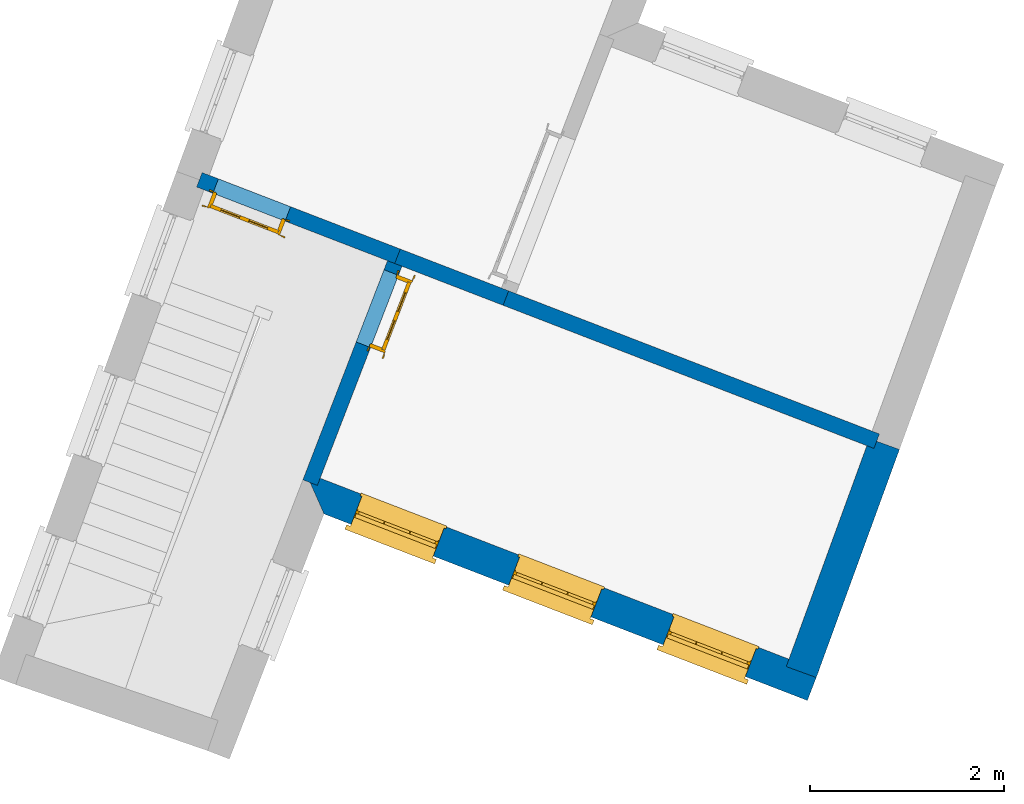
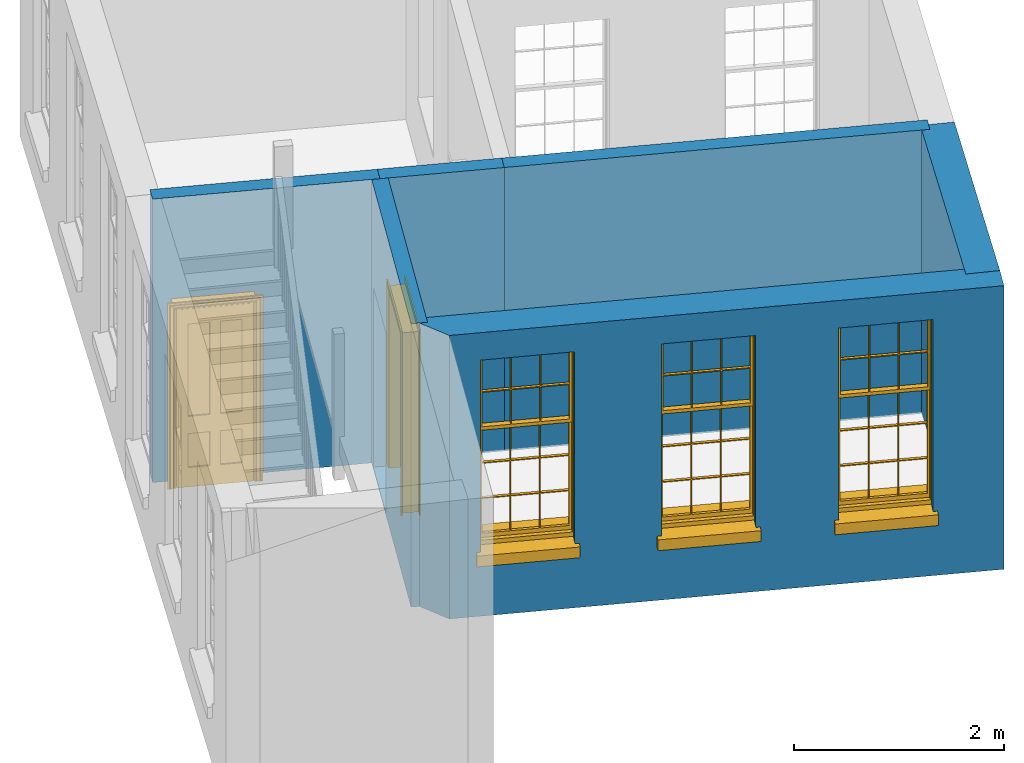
# One storey, part 2 of 4: 6 walls, 3 windows, 2 doors, 5 openings.
"""IFC4 building model written with IfcOpenShell, lengths in metres."""

from ifc_helpers import new_model, si_unit, frame, origin, origin_with_axes, place, context, subcontext, project, spatial, polyline, outline, extrude, faceted_brep, source, transform, mapped, material, layer, layer_set, layer_usage, type_object, type_shapes, element, fill, save


model = new_model("IFC4")

# Units and contexts
model_context = context("Model", 3, world=origin_with_axes())
body_context = subcontext(model_context, "Body", "Model", "MODEL_VIEW")
ifc_project = project(units=[si_unit("PLANEANGLEUNIT", "RADIAN"), si_unit("MASSUNIT", "GRAM", prefix="KILO"), si_unit("FORCEUNIT", "NEWTON", prefix="KILO"), si_unit("LENGTHUNIT", "METRE"), si_unit("AREAUNIT", "SQUARE_METRE"), si_unit("VOLUMEUNIT", "CUBIC_METRE")], contexts=[model_context, model_context])

# Sites, building, storey
site_1_placement = place(None, origin_with_axes())
site_1 = spatial("IfcSite", under=ifc_project, at=site_1_placement, Name="Tamar")
site_2_placement = place(site_1_placement, origin_with_axes())
site_2 = spatial("IfcSite", under=site_1, at=site_2_placement, Name="Site plot-11", CompositionType="ELEMENT")
building_placement = place(None, origin_with_axes())
building = spatial("IfcBuilding", under=site_2, at=building_placement, Name="Building plot-11", CompositionType="ELEMENT")
storey_placement = place(None, frame((0.0, 0.0, 30.1), z_axis=(0.0, 0.0, 1.0), x_axis=(1.0, 0.0, 0.0)))
storey = spatial("IfcBuildingStorey", under=building, at=storey_placement, Name="plot-11 1", CompositionType="ELEMENT", Elevation=30.1)

# Wall, openings, windows
ifc_material_1 = material(Name="Masonry")
ifc_layer_1 = layer(ifc_material_1, 0.33, ventilated=False)
ifc_layer_set_1 = layer_set([ifc_layer_1], Name="exterior_0.08_0.25")
ifc_layer_usage_1 = layer_usage(ifc_layer_set_1, "AXIS2", "POSITIVE", -0.25)
wall_type_1 = type_object("IfcWallType", Name="exterior_0.08_0.25", PredefinedType="SOLIDWALL", material=ifc_layer_set_1)
wall_1_placement = place(storey_placement, frame((241.432402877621, 311.902585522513, 0.0), z_axis=(0.0, 0.0, 1.0), x_axis=(0.932925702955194, -0.36006892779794, 0.0)))
wall_1 = element("IfcWall", 1, at=wall_1_placement, inside=storey, type_object=wall_type_1, material=ifc_layer_usage_1, Name="exterior", context=body_context, shape_type="SweptSolid", body=[
    extrude(outline(polyline([(-0.0800000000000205, 0.0799999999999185), (0.249999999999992, -0.250000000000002), (5.60336772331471, -0.249999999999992), (5.60336772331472, 0.0799999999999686), (-0.0800000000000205, 0.0799999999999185)])), origin_with_axes(), (0.0, 0.0, 1.0), 3.3),
])
opening_1_placement = place(wall_1_placement, frame((0.549999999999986, 0.0, 0.75)))
opening_1 = element("IfcOpeningElement", 2, at=opening_1_placement, cuts=wall_1, Name="My Opening", ObjectType="Opening", context=body_context, shape_type="SweptSolid", body=[
    extrude(outline(polyline([(0.0, -0.269999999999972), (0.910000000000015, -0.269999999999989), (0.910000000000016, 1.09999999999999), (9.99200722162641e-16, 1.10000000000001), (0.0, -0.269999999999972)])), origin_with_axes(), (0.0, 0.0, 1.0), 2.23),
])
opening_2_placement = place(wall_1_placement, frame((2.2961397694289, 0.0, 0.75)))
opening_2 = element("IfcOpeningElement", 3, at=opening_2_placement, cuts=wall_1, Name="My Opening", ObjectType="Opening", context=body_context, shape_type="SweptSolid", body=[
    extrude(outline(polyline([(0.0, -0.26999999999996), (0.909999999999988, -0.269999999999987), (0.909999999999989, 1.09999999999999), (8.88178419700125e-16, 1.10000000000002), (0.0, -0.26999999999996)])), origin_with_axes(), (0.0, 0.0, 1.0), 2.23),
])
opening_3_placement = place(wall_1_placement, frame((4.0061397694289, 0.0, 0.75)))
opening_3 = element("IfcOpeningElement", 4, at=opening_3_placement, cuts=wall_1, Name="My Opening", ObjectType="Opening", context=body_context, shape_type="SweptSolid", body=[
    extrude(outline(polyline([(0.0, -0.269999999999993), (0.909999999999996, -0.269999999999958), (0.909999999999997, 1.10000000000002), (1.77635683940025e-15, 1.09999999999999), (0.0, -0.269999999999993)])), origin_with_axes(), (0.0, 0.0, 1.0), 2.23),
])
window_type = type_object("IfcWindowType", Name="sash_big_taller", PartitioningType="DOUBLE_PANEL_HORIZONTAL", PredefinedType="NOTDEFINED")
shared_shape_1 = source(origin(), body_context, "Body", "Brep", [
    faceted_brep([(0.033125, 0.145, 1.385209), (0.01, 0.145, 1.385209), (0.033125, 0.145, 1.786042), (0.876875, 0.145, 1.385209), (0.876875, 0.145, 1.786042), (0.9, 0.145, 1.385209), (0.876875, 0.145, 1.796042), (0.876875, 0.145, 2.196875), (0.9, 0.145, 2.22), (0.033125, 0.145, 2.196875), (0.033125, 0.145, 1.796042), (0.01, 0.145, 2.22), (0.876875, 0.115, 1.786042), (0.876875, 0.115, 1.385209), (0.9, 0.115, 1.347084), (0.033125, 0.115, 2.196875), (0.01, 0.115, 2.22), (0.033125, 0.115, 1.796042), (0.01, 0.115, 1.347084), (0.033125, 0.115, 1.385209), (0.033125, 0.115, 1.786042), (0.876875, 0.115, 2.196875), (0.876875, 0.115, 1.796042), (0.9, 0.115, 2.22), (0.033125, 0.145, 1.347084), (0.01, 0.145, 1.347084), (0.033125, 0.145, 0.94625), (0.876875, 0.145, 1.347084), (0.876875, 0.145, 0.94625), (0.9, 0.145, 1.347084), (0.876875, 0.145, 0.52625), (0.876875, 0.145, 0.125417), (0.9, 0.145, 0.077167), (0.033125, 0.145, 0.125417), (0.033125, 0.145, 0.52625), (0.01, 0.145, 0.077167), (-0.0425, 0.0, 0.01), (-0.0425, -0.05, 0.001667), (0.0, 0.0, 0.01), (0.9525, 0.0, 0.01), (0.91, 0.0, 0.01), (0.9525, -0.05, 0.001667), (-0.02, 0.33, 0.077167), (0.0, 0.33, 0.077167), (-0.02, 0.36, 0.077167), (0.0, 0.19, 0.077167), (0.01, 0.19, 0.077167), (0.91, 0.19, 0.077167), (0.91, 0.33, 0.077167), (0.9, 0.19, 0.077167), (0.93, 0.33, 0.077167), (0.93, 0.36, 0.077167), (0.01, 0.175, 1.385209), (0.9, 0.175, 1.385209), (0.876875, 0.175, 0.125417), (0.876875, 0.175, 0.52625), (0.9, 0.175, 0.077167), (0.876875, 0.175, 0.94625), (0.876875, 0.175, 1.347084), (0.033125, 0.175, 0.125417), (0.01, 0.175, 0.077167), (0.033125, 0.175, 0.52625), (0.033125, 0.175, 1.347084), (0.033125, 0.175, 0.94625), (-0.02, 0.33, 0.052167), (-0.02, 0.36, 0.052167), (0.93, 0.36, 0.052167), (0.93, 0.33, 0.052167), (0.91, 0.33, 0.052167), (0.0, 0.33, 0.052167), (0.91, 0.1, 0.026667), (0.0, 0.1, 0.026667), (-0.0425, -0.05, -0.123333), (0.9525, -0.05, -0.123333), (-0.0425, 0.0, -0.123333), (0.9525, 0.0, -0.123333), (0.01, 0.19, 2.22), (0.9, 0.19, 2.22), (0.0, 0.19, 2.23), (0.91, 0.19, 2.23), (0.01, 0.1, 0.077167), (0.9, 0.1, 0.077167), (0.592292, 0.145, 0.125417), (0.592292, 0.175, 0.125417), (0.317708, 0.175, 0.125417), (0.317708, 0.145, 0.125417), (0.592292, 0.145, 0.53625), (0.317708, 0.145, 0.53625), (0.317708, 0.145, 0.52625), (0.592292, 0.145, 0.52625), (0.592292, 0.175, 0.53625), (0.317708, 0.175, 0.53625), (0.592292, 0.115, 1.796042), (0.592292, 0.145, 1.796042), (0.317708, 0.145, 1.796042), (0.317708, 0.115, 1.796042), (0.317708, 0.115, 1.786042), (0.592292, 0.115, 1.786042), (0.317708, 0.145, 1.786042), (0.592292, 0.145, 1.786042), (0.602292, 0.115, 1.786042), (0.592292, 0.115, 1.385209), (0.602292, 0.115, 1.385209), (0.602292, 0.145, 1.385209), (0.592292, 0.145, 1.385209), (0.602292, 0.145, 1.786042), (0.876875, 0.145, 0.53625), (0.876875, 0.175, 0.53625), (0.602292, 0.175, 0.53625), (0.602292, 0.145, 0.53625), (0.317708, 0.175, 0.52625), (0.307708, 0.175, 0.125417), (0.307708, 0.175, 0.52625), (0.602292, 0.175, 0.52625), (0.602292, 0.175, 0.125417), (0.592292, 0.175, 0.52625), (0.307708, 0.175, 0.53625), (0.033125, 0.175, 0.53625), (0.317708, 0.175, 1.347084), (0.317708, 0.175, 0.94625), (0.307708, 0.175, 0.94625), (0.307708, 0.175, 1.347084), (0.602292, 0.175, 1.347084), (0.602292, 0.175, 0.94625), (0.592292, 0.175, 0.94625), (0.592292, 0.175, 1.347084), (0.307708, 0.145, 0.52625), (0.307708, 0.145, 0.125417), (0.307708, 0.145, 0.53625), (0.033125, 0.145, 0.53625), (0.307708, 0.145, 1.347084), (0.307708, 0.145, 0.94625), (0.592292, 0.145, 1.347084), (0.592292, 0.145, 0.94625), (0.317708, 0.145, 0.94625), (0.317708, 0.145, 1.347084), (0.602292, 0.145, 0.94625), (0.602292, 0.145, 1.347084), (0.602292, 0.145, 0.52625), (0.602292, 0.145, 0.125417), (0.307708, 0.115, 1.796042), (0.307708, 0.115, 1.786042), (0.307708, 0.115, 1.385209), (0.317708, 0.115, 1.385209), (0.317708, 0.115, 2.196875), (0.307708, 0.115, 2.196875), (0.602292, 0.115, 2.196875), (0.592292, 0.115, 2.196875), (0.602292, 0.115, 1.796042), (0.602292, 0.145, 1.796042), (0.307708, 0.145, 1.796042), (0.307708, 0.145, 2.196875), (0.317708, 0.145, 2.196875), (0.592292, 0.145, 2.196875), (0.602292, 0.145, 2.196875), (0.307708, 0.145, 1.786042), (0.317708, 0.145, 1.385209), (0.307708, 0.145, 1.385209), (0.876875, 0.175, 0.93625), (0.033125, 0.175, 0.93625), (0.033125, 0.145, 0.93625), (0.876875, 0.145, 0.93625), (0.91, 0.1, 2.23), (0.9, 0.1, 2.22), (0.01, 0.1, 2.22), (0.0, 0.1, 2.23), (0.91, 0.0, 0.0), (0.0, 0.0, 0.0), (0.91, 0.33, 0.0), (0.0, 0.33, 0.0), (0.317708, 0.145, 0.93625), (0.592292, 0.145, 0.93625), (0.317708, 0.175, 0.93625), (0.307708, 0.175, 0.93625), (0.602292, 0.175, 0.93625), (0.592292, 0.175, 0.93625), (0.307708, 0.145, 0.93625), (0.602292, 0.145, 0.93625)], [[[0, 1, 2]], [[3, 4, 5]], [[6, 7, 8]], [[9, 10, 11]], [[12, 13, 14]], [[15, 16, 17]], [[18, 19, 20]], [[21, 22, 23]], [[24, 25, 26]], [[27, 28, 29]], [[30, 31, 32]], [[33, 34, 35]], [[14, 27, 29]], [[25, 24, 18]], [[36, 37, 38]], [[39, 40, 41]], [[42, 43, 44]], [[45, 46, 43]], [[47, 48, 49]], [[50, 51, 48]], [[1, 0, 52]], [[5, 53, 3]], [[54, 55, 56]], [[57, 58, 53]], [[59, 60, 61]], [[62, 63, 52]], [[48, 43, 46, 49]], [[51, 44, 43, 48]], [[64, 42, 44, 65]], [[65, 44, 51, 66]], [[66, 51, 50, 67]], [[65, 66, 68, 69]], [[60, 56, 49, 46]], [[70, 71, 38, 40]], [[37, 41, 40, 38]], [[37, 72, 73, 41]], [[74, 75, 73, 72]], [[8, 11, 76, 77]], [[76, 78, 79, 77]], [[32, 35, 80, 81]], [[81, 80, 71, 70]], [[82, 83, 84, 85]], [[86, 87, 88, 89]], [[86, 90, 91, 87]], [[92, 93, 94, 95]], [[92, 95, 96, 97]], [[96, 98, 99, 97]], [[100, 97, 101, 102]], [[103, 104, 99, 105]], [[97, 99, 104, 101]], [[102, 103, 105, 100]], [[106, 107, 108, 109]], [[110, 84, 111, 112]], [[113, 114, 83, 115]], [[116, 112, 61, 117]], [[90, 115, 110, 91]], [[118, 119, 120, 121]], [[122, 123, 124, 125]], [[113, 108, 107, 55]], [[126, 112, 111, 127]], [[34, 61, 112, 126]], [[89, 115, 83, 82]], [[88, 110, 115, 89]], [[85, 84, 110, 88]], [[128, 116, 117, 129]], [[130, 121, 120, 131]], [[132, 125, 124, 133]], [[134, 119, 118, 135]], [[136, 123, 122, 137]], [[138, 113, 55, 30]], [[139, 114, 113, 138]], [[138, 30, 106, 109]], [[88, 126, 127, 85]], [[138, 89, 82, 139]], [[137, 132, 133, 136]], [[128, 129, 34, 126]], [[135, 130, 131, 134]], [[140, 17, 20, 141]], [[96, 141, 142, 143]], [[144, 145, 140, 95]], [[146, 147, 92, 148]], [[100, 12, 22, 148]], [[149, 6, 4, 105]], [[94, 150, 151, 152]], [[149, 93, 153, 154]], [[99, 98, 94, 93]], [[155, 2, 10, 150]], [[156, 157, 155, 98]], [[141, 155, 157, 142]], [[20, 2, 155, 141]], [[143, 156, 98, 96]], [[140, 150, 10, 17]], [[145, 151, 150, 140]], [[147, 153, 93, 92]], [[95, 94, 152, 144]], [[22, 6, 149, 148]], [[148, 149, 154, 146]], [[100, 105, 4, 12]], [[109, 86, 89, 138]], [[108, 113, 115, 90]], [[91, 110, 112, 116]], [[87, 128, 126, 88]], [[97, 100, 148, 92]], [[141, 96, 95, 140]], [[98, 155, 150, 94]], [[105, 99, 93, 149]], [[143, 101, 104, 156]], [[135, 118, 125, 132]], [[144, 152, 153, 147]], [[127, 111, 59, 33]], [[15, 9, 151, 145]], [[146, 154, 7, 21]], [[31, 54, 114, 139]], [[36, 74, 72, 37]], [[39, 41, 73, 75]], [[18, 14, 101, 143]], [[23, 16, 144, 147]], [[83, 56, 60, 84]], [[52, 53, 125, 118]], [[53, 52, 156, 104]], [[11, 8, 153, 152]], [[14, 18, 135, 132]], [[2, 1, 11, 10]], [[8, 5, 4, 6]], [[57, 53, 56, 158]], [[60, 52, 63, 159]], [[26, 25, 35, 160]], [[32, 29, 28, 161]], [[14, 23, 22, 12]], [[18, 20, 17, 16]], [[19, 0, 2, 20]], [[17, 10, 9, 15]], [[12, 4, 3, 13]], [[21, 7, 6, 22]], [[27, 58, 57, 28]], [[30, 55, 54, 31]], [[33, 59, 61, 34]], [[26, 63, 62, 24]], [[5, 8, 77, 53]], [[76, 11, 1, 52]], [[46, 45, 78, 76]], [[49, 77, 79, 47]], [[70, 162, 163, 81]], [[71, 80, 164, 165]], [[19, 142, 157, 0]], [[102, 13, 3, 103]], [[121, 130, 24, 62]], [[29, 32, 81, 14]], [[80, 35, 25, 18]], [[60, 46, 76, 52]], [[77, 49, 56, 53]], [[23, 14, 81, 163]], [[16, 164, 80, 18]], [[35, 85, 127]], [[127, 33, 35]], [[139, 82, 32]], [[32, 31, 139]], [[32, 82, 85, 35]], [[102, 101, 14]], [[14, 13, 102]], [[18, 143, 142]], [[142, 19, 18]], [[146, 21, 23]], [[23, 147, 146]], [[16, 15, 145]], [[145, 144, 16]], [[11, 152, 151]], [[151, 9, 11]], [[154, 153, 8]], [[8, 7, 154]], [[23, 163, 164, 16]], [[162, 165, 164, 163]], [[52, 118, 121]], [[121, 62, 52]], [[125, 53, 122]], [[58, 122, 53]], [[27, 137, 122, 58]], [[56, 83, 114]], [[114, 54, 56]], [[111, 84, 60]], [[60, 59, 111]], [[137, 27, 14]], [[14, 132, 137]], [[130, 135, 18]], [[18, 24, 130]], [[157, 156, 52]], [[52, 0, 157]], [[103, 3, 53]], [[53, 104, 103]], [[79, 78, 165, 162]], [[78, 45, 71, 165]], [[162, 70, 47, 79]], [[166, 75, 74, 167]], [[68, 66, 67]], [[48, 68, 67, 50]], [[69, 64, 65]], [[42, 64, 69, 43]], [[69, 68, 168, 169]], [[70, 68, 48, 47]], [[166, 168, 68, 70]], [[43, 69, 71, 45]], [[69, 169, 167, 71]], [[168, 166, 167, 169]], [[38, 167, 74, 36]], [[71, 167, 38]], [[39, 75, 166, 40]], [[40, 166, 70]], [[133, 134, 170, 171]], [[133, 124, 119, 134]], [[28, 57, 123, 136]], [[172, 91, 116, 173]], [[174, 108, 90, 175]], [[120, 173, 159, 63]], [[124, 175, 172, 119]], [[174, 123, 57, 158]], [[176, 173, 116, 128]], [[160, 159, 173, 176]], [[171, 175, 90, 86]], [[170, 172, 175, 171]], [[87, 91, 172, 170]], [[131, 120, 63, 26]], [[177, 174, 158, 161]], [[109, 108, 174, 177]], [[177, 161, 28, 136]], [[170, 176, 128, 87]], [[177, 171, 86, 109]], [[131, 26, 160, 176]], [[136, 133, 171, 177]], [[123, 174, 175, 124]], [[119, 172, 173, 120]], [[134, 131, 176, 170]], [[129, 117, 159, 160]], [[161, 158, 107, 106]], [[35, 34, 129]], [[35, 129, 160]], [[32, 106, 30]], [[32, 161, 106]], [[56, 55, 107]], [[56, 107, 158]], [[60, 117, 61]], [[60, 159, 117]]]),
])
type_shapes(window_type, [shared_shape_1])
window_1_placement = place(storey_placement, frame((241.848293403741, 311.452657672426, 0.75), z_axis=(0.0, 0.0, 1.0), x_axis=(0.848962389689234, -0.327662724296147, 0.0)))
window_1 = element("IfcWindow", 5, at=window_1_placement, inside=storey, type_object=window_type, Name="bedroom outside window", OverallHeight=2.23, OverallWidth=0.91, context=body_context, shape_type="MappedRepresentation", body=[
    mapped(shared_shape_1, transform((0.0, 0.0, 0.0), scale=1.0)),
])
fill(opening_1, window_1)
window_2_placement = place(storey_placement, frame((243.477312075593, 310.823926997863, 0.75), z_axis=(0.0, 0.0, 1.0), x_axis=(0.848962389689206, -0.327662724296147, 0.0)))
window_2 = element("IfcWindow", 6, at=window_2_placement, inside=storey, type_object=window_type, Name="bedroom outside window", OverallHeight=2.23, OverallWidth=0.91, context=body_context, shape_type="MappedRepresentation", body=[
    mapped(shared_shape_1, transform((0.0, 0.0, 0.0), scale=1.0)),
])
fill(opening_2, window_2)
window_3_placement = place(storey_placement, frame((245.072615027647, 310.208209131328, 0.75), z_axis=(0.0, 0.0, 1.0), x_axis=(0.848962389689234, -0.32766272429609, 0.0)))
window_3 = element("IfcWindow", 7, at=window_3_placement, inside=storey, type_object=window_type, Name="bedroom outside window", OverallHeight=2.23, OverallWidth=0.91, context=body_context, shape_type="MappedRepresentation", body=[
    mapped(shared_shape_1, transform((0.0, 0.0, 0.0), scale=1.0)),
])
fill(opening_3, window_3)

# Wall
ifc_material_2 = material(Name="Masonry")
ifc_layer_2 = layer(ifc_material_2, 0.33, ventilated=False)
ifc_layer_set_2 = layer_set([ifc_layer_2], Name="party_0.08_0.25")
ifc_layer_usage_2 = layer_usage(ifc_layer_set_2, "AXIS2", "POSITIVE", -0.25)
wall_type_2 = type_object("IfcWallType", Name="party_0.08_0.25", PredefinedType="SOLIDWALL", material=ifc_layer_set_2)
wall_2_placement = place(storey_placement, frame((246.426697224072, 309.975004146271, 0.0), z_axis=(0.0, 0.0, 1.0), x_axis=(0.342734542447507, 0.939432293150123, 0.0)))
element("IfcWall", 8, at=wall_2_placement, inside=storey, type_object=wall_type_2, material=ifc_layer_usage_2, Name="party", context=body_context, shape_type="SweptSolid", body=[
    extrude(outline(polyline([(1.05209310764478e-14, 0.0800000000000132), (7.78686925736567e-15, -0.250000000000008), (2.50759775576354, -0.250000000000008), (2.50759775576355, 0.0800000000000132), (1.05209310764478e-14, 0.0800000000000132)])), origin_with_axes(), (0.0, 0.0, 1.0), 3.3),
])

# Wall, opening, door
ifc_material_3 = material(Name="Masonry")
ifc_layer_3 = layer(ifc_material_3, 0.16, ventilated=False)
ifc_layer_set_3 = layer_set([ifc_layer_3], Name="interior_0.08_0.08")
ifc_layer_usage_3 = layer_usage(ifc_layer_set_3, "AXIS2", "POSITIVE", -0.08)
wall_type_3 = type_object("IfcWallType", Name="interior_0.08_0.08", PredefinedType="SOLIDWALL", material=ifc_layer_set_3)
wall_3_placement = place(storey_placement, frame((242.335156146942, 314.241586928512, 0.0), z_axis=(0.0, 0.0, 1.0), x_axis=(-0.360068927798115, -0.932925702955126, 0.0)))
wall_3 = element("IfcWall", 9, at=wall_3_placement, inside=storey, type_object=wall_type_3, material=ifc_layer_usage_3, Name="interior", context=body_context, shape_type="SweptSolid", body=[
    extrude(outline(polyline([(-4.77533209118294e-15, 0.0800000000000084), (4.76553491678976e-15, -0.0800000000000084), (2.50716793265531, -0.0800000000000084), (2.5071679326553, 0.0800000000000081), (-4.77533209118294e-15, 0.0800000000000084)])), origin_with_axes(), (0.0, 0.0, 1.0), 3.3),
])
opening_4_placement = place(wall_3_placement, frame((0.180000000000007, 0.0, 0.0199999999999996)))
opening_4 = element("IfcOpeningElement", 10, at=opening_4_placement, cuts=wall_3, Name="My Opening", ObjectType="Opening", context=body_context, shape_type="SweptSolid", body=[
    extrude(outline(polyline([(0.0, -0.100000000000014), (0.799999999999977, -0.100000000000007), (0.80000000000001, 1.10000000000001), (3.28903571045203e-14, 1.1), (0.0, -0.100000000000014)])), origin_with_axes(), (0.0, 0.0, 1.0), 2.1),
])
door_type = type_object("IfcDoorType", Name="door_inside", OperationType="SINGLE_SWING_LEFT", PredefinedType="NOTDEFINED")
shared_shape_2 = source(origin(), body_context, "Body", "Brep", [
    faceted_brep([(0.773, 0.33, 1.895), (0.66, 0.33, 1.895), (0.66, 0.33, 2.073), (0.773, 0.33, 2.073), (0.773, 0.33, 0.82), (0.66, 0.33, 0.82), (0.45, 0.33, 1.895), (0.45, 0.33, 2.073), (0.773, 0.33, 0.62), (0.66, 0.33, 0.62), (0.66, 0.315, 0.82), (0.66, 0.315, 1.895), (0.45, 0.315, 1.895), (0.35, 0.33, 1.895), (0.35, 0.33, 2.073), (0.773, 0.33, 0.225), (0.66, 0.33, 0.225), (0.45, 0.33, 0.62), (0.45, 0.33, 0.82), (0.45, 0.315, 0.82), (0.35, 0.33, 0.82), (0.14, 0.33, 2.073), (0.14, 0.33, 1.895), (0.773, 0.33, 0.0), (0.66, 0.33, 0.0), (0.66, 0.315, 0.225), (0.66, 0.315, 0.62), (0.45, 0.315, 0.62), (0.35, 0.33, 0.62), (0.35, 0.315, 0.82), (0.35, 0.315, 1.895), (0.14, 0.315, 1.895), (0.027, 0.33, 2.073), (0.027, 0.33, 1.895), (0.773, 0.292, 0.0), (0.66, 0.292, 0.0), (0.45, 0.33, 0.0), (0.45, 0.33, 0.225), (0.45, 0.315, 0.225), (0.35, 0.33, 0.225), (0.14, 0.33, 0.82), (0.14, 0.33, 0.62), (0.14, 0.315, 0.82), (0.027, 0.33, 0.82), (0.773, 0.292, 0.225), (0.66, 0.292, 0.225), (0.45, 0.292, 0.0), (0.35, 0.33, 0.0), (0.35, 0.315, 0.225), (0.35, 0.315, 0.62), (0.14, 0.315, 0.62), (0.027, 0.33, 0.62), (0.773, 0.292, 0.62), (0.66, 0.292, 0.62), (0.45, 0.292, 0.225), (0.35, 0.292, 0.0), (0.14, 0.33, 0.225), (0.14, 0.33, 0.0), (0.14, 0.315, 0.225), (0.027, 0.33, 0.225), (0.773, 0.292, 0.82), (0.66, 0.292, 0.82), (0.66, 0.307, 0.62), (0.66, 0.307, 0.225), (0.45, 0.307, 0.225), (0.35, 0.292, 0.225), (0.14, 0.292, 0.0), (0.027, 0.33, 0.0), (0.773, 0.292, 1.895), (0.66, 0.292, 1.895), (0.45, 0.292, 0.62), (0.45, 0.292, 0.82), (0.45, 0.307, 0.62), (0.35, 0.292, 0.62), (0.14, 0.292, 0.225), (0.027, 0.292, 0.0), (0.773, 0.292, 2.073), (0.66, 0.292, 2.073), (0.66, 0.307, 1.895), (0.66, 0.307, 0.82), (0.45, 0.307, 0.82), (0.35, 0.292, 0.82), (0.35, 0.307, 0.62), (0.35, 0.307, 0.225), (0.14, 0.307, 0.225), (0.027, 0.292, 0.225), (0.45, 0.292, 1.895), (0.45, 0.292, 2.073), (0.45, 0.307, 1.895), (0.35, 0.292, 1.895), (0.14, 0.292, 0.82), (0.14, 0.292, 0.62), (0.14, 0.307, 0.62), (0.027, 0.292, 0.62), (0.35, 0.292, 2.073), (0.35, 0.307, 1.895), (0.35, 0.307, 0.82), (0.14, 0.307, 0.82), (0.027, 0.292, 0.82), (0.14, 0.292, 2.073), (0.14, 0.292, 1.895), (0.14, 0.307, 1.895), (0.027, 0.292, 1.895), (0.027, 0.292, 2.073), (0.02, 0.335, 0.0), (0.005, 0.34, 0.0), (0.005, 0.34, 2.095), (0.02, 0.335, 2.08), (0.02, 0.33, 0.0), (0.0, 0.335, 0.0), (0.0, 0.335, 2.1), (0.795, 0.34, 2.095), (0.78, 0.335, 2.08), (0.02, 0.33, 2.08), (0.0, 0.33, 0.0), (-0.032, 0.345, 0.0), (-0.032, 0.345, 2.132), (0.8, 0.335, 2.1), (0.795, 0.34, 0.0), (0.78, 0.335, 0.0), (0.78, 0.33, 2.08), (0.04, 0.29, 0.0), (0.025, 0.29, 0.0), (0.025, 0.29, 2.075), (0.04, 0.29, 2.06), (-0.04, 0.34, 0.0), (-0.04, 0.34, 2.14), (0.832, 0.345, 2.132), (0.8, 0.335, 0.0), (0.78, 0.33, 0.0), (0.8, 0.33, 0.0), (0.86, 0.33, 0.0), (0.86, 0.33, 2.16), (0.8, 0.33, 2.1), (-0.06, 0.33, 2.16), (0.0, 0.33, 2.1), (-0.06, 0.33, 0.0), (-0.04, 0.345, 0.0), (-0.04, 0.345, 2.14), (0.84, 0.34, 2.14), (0.832, 0.345, 0.0), (0.84, 0.34, 0.0), (0.86, 0.345, 0.0), (0.86, 0.345, 2.16), (-0.06, 0.345, 2.16), (-0.06, 0.345, 0.0), (0.84, 0.345, 0.0), (0.84, 0.345, 2.14), (-0.025, 0.155, 0.0), (-0.025, 0.16, 0.0), (-0.025, 0.16, 2.125), (-0.025, 0.155, 2.125), (-0.017, 0.155, 0.0), (-0.017, 0.155, 2.117), (0.825, 0.16, 2.125), (0.825, 0.155, 2.125), (0.825, 0.155, 0.0), (0.845, 0.155, 0.0), (-0.045, 0.155, 2.145), (-0.045, 0.155, 0.0), (0.845, 0.155, 2.145), (0.015, 0.165, 0.0), (0.015, 0.165, 2.085), (0.817, 0.155, 2.117), (0.825, 0.16, 0.0), (0.845, 0.17, 0.0), (0.845, 0.17, 2.145), (-0.045, 0.17, 2.145), (-0.045, 0.17, 0.0), (0.02, 0.16, 0.0), (0.02, 0.16, 2.08), (0.785, 0.165, 2.085), (0.817, 0.155, 0.0), (0.8, 0.17, 0.0), (0.8, 0.17, 2.1), (0.0, 0.17, 2.1), (0.0, 0.17, 0.0), (0.035, 0.165, 0.0), (0.035, 0.165, 2.065), (0.78, 0.16, 2.08), (0.785, 0.165, 0.0), (0.775, 0.29, 2.075), (0.76, 0.29, 2.06), (0.035, 0.17, 2.065), (0.035, 0.17, 0.0), (0.765, 0.165, 2.065), (0.78, 0.16, 0.0), (0.765, 0.17, 0.0), (0.765, 0.17, 2.065), (0.765, 0.165, 0.0), (0.04, 0.17, 2.06), (0.04, 0.17, 0.0), (0.76, 0.17, 2.06), (0.76, 0.17, 0.0), (0.76, 0.29, 0.0), (0.775, 0.29, 0.0), (0.025, 0.33, 0.0), (0.025, 0.33, 2.075), (0.775, 0.33, 0.0), (0.775, 0.33, 2.075)], [[[0, 1, 2, 3]], [[1, 0, 4, 5]], [[1, 6, 7, 2]], [[8, 9, 5, 4]], [[1, 5, 10, 11]], [[6, 1, 11, 12]], [[6, 13, 14, 7]], [[15, 16, 9, 8]], [[9, 17, 18, 5]], [[5, 18, 19, 10]], [[10, 19, 12, 11]], [[18, 6, 12, 19]], [[18, 20, 13, 6]], [[21, 14, 13, 22]], [[23, 24, 16, 15]], [[9, 16, 25, 26]], [[17, 9, 26, 27]], [[17, 28, 20, 18]], [[13, 20, 29, 30]], [[22, 13, 30, 31]], [[32, 21, 22, 33]], [[34, 35, 24, 23]], [[24, 36, 37, 16]], [[16, 37, 38, 25]], [[25, 38, 27, 26]], [[37, 17, 27, 38]], [[37, 39, 28, 17]], [[40, 20, 28, 41]], [[20, 40, 42, 29]], [[31, 30, 29, 42]], [[40, 22, 31, 42]], [[33, 22, 40, 43]], [[35, 34, 44, 45]], [[35, 46, 36, 24]], [[36, 47, 39, 37]], [[28, 39, 48, 49]], [[41, 28, 49, 50]], [[43, 40, 41, 51]], [[45, 44, 52, 53]], [[46, 35, 45, 54]], [[46, 55, 47, 36]], [[56, 39, 47, 57]], [[39, 56, 58, 48]], [[50, 49, 48, 58]], [[56, 41, 50, 58]], [[51, 41, 56, 59]], [[53, 52, 60, 61]], [[45, 53, 62, 63]], [[54, 45, 63, 64]], [[55, 46, 54, 65]], [[55, 66, 57, 47]], [[59, 56, 57, 67]], [[61, 60, 68, 69]], [[70, 53, 61, 71]], [[53, 70, 72, 62]], [[72, 64, 63, 62]], [[70, 54, 64, 72]], [[65, 54, 70, 73]], [[65, 74, 66, 55]], [[67, 57, 66, 75]], [[69, 68, 76, 77]], [[61, 69, 78, 79]], [[71, 61, 79, 80]], [[73, 70, 71, 81]], [[65, 73, 82, 83]], [[74, 65, 83, 84]], [[74, 85, 75, 66]], [[86, 69, 77, 87]], [[69, 86, 88, 78]], [[88, 80, 79, 78]], [[86, 71, 80, 88]], [[81, 71, 86, 89]], [[73, 81, 90, 91]], [[73, 91, 92, 82]], [[83, 82, 92, 84]], [[91, 74, 84, 92]], [[91, 93, 85, 74]], [[89, 86, 87, 94]], [[81, 89, 95, 96]], [[90, 81, 96, 97]], [[90, 98, 93, 91]], [[94, 99, 100, 89]], [[89, 100, 101, 95]], [[101, 97, 96, 95]], [[100, 90, 97, 101]], [[100, 102, 98, 90]], [[99, 103, 102, 100]], [[32, 103, 99, 21]], [[102, 103, 32, 33]], [[98, 102, 33, 43]], [[21, 99, 94, 14]], [[94, 87, 7, 14]], [[7, 87, 77, 2]], [[76, 3, 2, 77]], [[43, 51, 93, 98]], [[51, 59, 85, 93]], [[67, 75, 85, 59]], [[34, 23, 15, 44]], [[44, 15, 8, 52]], [[52, 8, 4, 60]], [[0, 68, 60, 4]], [[0, 3, 76, 68]], [[104, 105, 106, 107]], [[104, 108, 109, 105]], [[105, 109, 110, 106]], [[107, 106, 111, 112]], [[107, 113, 108, 104]], [[114, 109, 108]], [[109, 115, 116, 110]], [[106, 110, 117, 111]], [[112, 111, 118, 119]], [[113, 107, 112, 120]], [[121, 122, 123, 124]], [[115, 109, 114, 125]], [[115, 125, 126, 116]], [[110, 116, 127, 117]], [[111, 117, 128, 118]], [[118, 128, 129, 119]], [[120, 112, 119, 129]], [[130, 129, 128]], [[130, 131, 132, 133]], [[133, 132, 134, 135]], [[135, 134, 136, 114]], [[136, 125, 114]], [[125, 137, 138, 126]], [[116, 126, 139, 127]], [[117, 127, 140, 128]], [[141, 130, 128, 140]], [[131, 130, 141]], [[131, 142, 143, 132]], [[132, 143, 144, 134]], [[134, 144, 145, 136]], [[137, 125, 136, 145]], [[143, 142, 146]], [[143, 146, 147]], [[137, 145, 144]], [[143, 147, 138]], [[138, 137, 144]], [[143, 138, 144]], [[126, 138, 147, 139]], [[127, 139, 141, 140]], [[142, 131, 141, 146]], [[139, 147, 146, 141]], [[148, 149, 150, 151]], [[149, 152, 153, 150]], [[151, 150, 154, 155]], [[155, 156, 157]], [[158, 159, 148]], [[158, 148, 151]], [[155, 157, 160]], [[158, 151, 155]], [[155, 160, 158]], [[152, 161, 162, 153]], [[150, 153, 163, 154]], [[155, 154, 164, 156]], [[156, 164, 165, 157]], [[157, 165, 166, 160]], [[160, 166, 167, 158]], [[158, 167, 168, 159]], [[161, 169, 170, 162]], [[153, 162, 171, 163]], [[154, 163, 172, 164]], [[165, 164, 173]], [[165, 173, 174, 166]], [[166, 174, 175, 167]], [[167, 175, 176, 168]], [[169, 177, 178, 170]], [[162, 170, 179, 171]], [[163, 171, 180, 172]], [[172, 180, 173, 164]], [[124, 123, 181, 182]], [[183, 178, 177, 184]], [[170, 178, 185, 179]], [[171, 179, 186, 180]], [[187, 173, 180]], [[185, 188, 187, 189]], [[188, 185, 178, 183]], [[179, 185, 189, 186]], [[189, 187, 180, 186]], [[190, 183, 184, 191]], [[192, 188, 183, 190]], [[191, 184, 122, 121]], [[124, 190, 191, 121]], [[193, 187, 188, 192]], [[182, 192, 190, 124]], [[184, 176, 122]], [[194, 195, 187, 193]], [[192, 182, 194, 193]], [[161, 176, 184]], [[114, 108, 122, 176]], [[173, 187, 195]], [[152, 149, 176, 161]], [[169, 161, 184, 177]], [[196, 122, 108]], [[176, 175, 135, 114]], [[173, 195, 129, 130]], [[176, 149, 168]], [[123, 122, 196, 197]], [[196, 108, 113, 197]], [[175, 174, 133, 135]], [[198, 129, 195]], [[133, 174, 173, 130]], [[159, 168, 149, 148]], [[181, 123, 197, 199]], [[197, 113, 120, 199]], [[199, 120, 129, 198]], [[195, 181, 199, 198]], [[195, 194, 182, 181]]]),
])
type_shapes(door_type, [shared_shape_2])
door_1_placement = place(storey_placement, frame((242.177051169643, 314.10966719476, 0.0199999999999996), z_axis=(0.0, 0.0, 1.0), x_axis=(-0.288055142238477, -0.746340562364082, 0.0)))
door_1 = element("IfcDoor", 11, at=door_1_placement, inside=storey, type_object=door_type, Name="bedroom inside door", OverallHeight=2.1, OverallWidth=0.8, context=body_context, shape_type="MappedRepresentation", body=[
    mapped(shared_shape_2, transform((0.0, 0.0, 0.0), scale=1.0)),
])
fill(opening_4, door_1)

# Walls
wall_4_placement = place(storey_placement, frame((242.335156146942, 314.241586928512, 0.0), z_axis=(0.0, 0.0, 1.0), x_axis=(0.93292570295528, -0.360068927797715, 0.0)))
element("IfcWall", 12, at=wall_4_placement, inside=storey, type_object=wall_type_3, material=ifc_layer_usage_3, Name="interior", context=body_context, shape_type="SweptSolid", body=[
    extrude(outline(polyline([(-7.27816445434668e-15, 0.0800000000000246), (7.23284014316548e-15, -0.0800000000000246), (1.19993859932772, -0.0800000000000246), (1.1999385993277, 0.0800000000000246), (-7.27816445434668e-15, 0.0800000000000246)])), origin_with_axes(), (0.0, 0.0, 1.0), 3.3),
])
wall_5_placement = place(storey_placement, frame((243.454609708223, 313.809526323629, 0.0), z_axis=(0.0, 0.0, 1.0), x_axis=(0.932925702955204, -0.360068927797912, 0.0)))
element("IfcWall", 13, at=wall_5_placement, inside=storey, type_object=wall_type_3, material=ifc_layer_usage_3, Name="interior", context=body_context, shape_type="SweptSolid", body=[
    extrude(outline(polyline([(-3.68992363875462e-15, 0.0799999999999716), (3.68012646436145e-15, -0.0799999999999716), (4.10700216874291, -0.0799999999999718), (4.1070021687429, 0.0799999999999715), (-3.68992363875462e-15, 0.0799999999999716)])), origin_with_axes(), (0.0, 0.0, 1.0), 3.3),
])

# Wall, opening, door
wall_6_placement = place(storey_placement, frame((242.335156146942, 314.241586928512, 0.0), z_axis=(0.0, 0.0, 1.0), x_axis=(-0.932925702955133, 0.360068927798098, 0.0)))
wall_6 = element("IfcWall", 14, at=wall_6_placement, inside=storey, type_object=wall_type_3, material=ifc_layer_usage_3, Name="interior", context=body_context, shape_type="SweptSolid", body=[
    extrude(outline(polyline([(6.86163598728e-15, 0.0799999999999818), (-6.85183881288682e-15, -0.0799999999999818), (2.19434501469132, -0.0799999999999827), (2.19434501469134, 0.0799999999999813), (6.86163598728e-15, 0.0799999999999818)])), origin_with_axes(), (0.0, 0.0, 1.0), 3.3),
])
opening_5_placement = place(wall_6_placement, frame((1.21434501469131, 0.0, 0.0199999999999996)))
opening_5 = element("IfcOpeningElement", 15, at=opening_5_placement, cuts=wall_6, Name="My Opening", ObjectType="Opening", context=body_context, shape_type="SweptSolid", body=[
    extrude(outline(polyline([(0.0, -0.0999999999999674), (0.799999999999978, -0.0999999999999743), (0.800000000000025, 1.09999999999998), (4.72955008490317e-14, 1.09999999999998), (0.0, -0.0999999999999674)])), origin_with_axes(), (0.0, 0.0, 1.0), 2.1),
])
door_2_placement = place(storey_placement, frame((241.238269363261, 314.772127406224, 0.0199999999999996), z_axis=(0.0, 0.0, 1.0), x_axis=(-0.746340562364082, 0.288055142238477, 0.0)))
door_2 = element("IfcDoor", 16, at=door_2_placement, inside=storey, type_object=door_type, Name="living inside door", OverallHeight=2.1, OverallWidth=0.8, context=body_context, shape_type="MappedRepresentation", body=[
    mapped(shared_shape_2, transform((0.0, 0.0, 0.0), scale=1.0)),
])
fill(opening_5, door_2)

save(model, "model.ifc")
